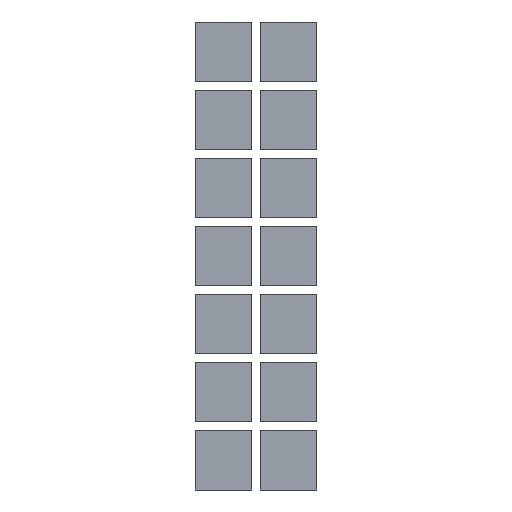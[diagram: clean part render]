
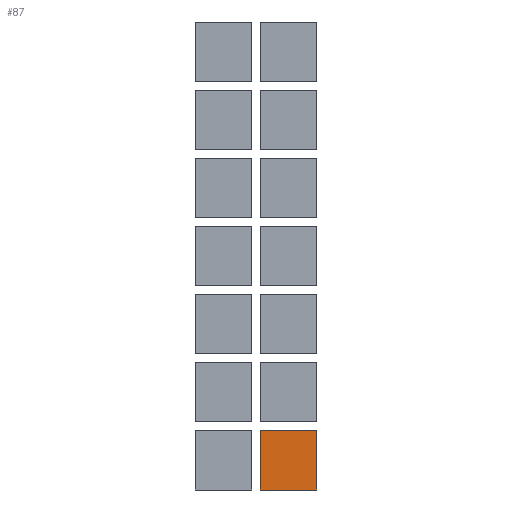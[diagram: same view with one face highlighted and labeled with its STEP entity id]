
A CAD part, left-side view. The second image highlights one B-rep face of the part: STEP entity #87.
In plain terms, the highlighted planar face has unit normal (-1, 0, 0).
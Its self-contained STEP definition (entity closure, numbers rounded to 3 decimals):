
#87 = ADVANCED_FACE('',(#88),#102,.F.);
#88 = FACE_BOUND('',#89,.F.);
#89 = EDGE_LOOP('',(#90,#125,#153,#181));
#90 = ORIENTED_EDGE('',*,*,#91,.F.);
#91 = EDGE_CURVE('',#92,#94,#96,.T.);
#92 = VERTEX_POINT('',#93);
#93 = CARTESIAN_POINT('',(-0.4,-20.,-21.));
#94 = VERTEX_POINT('',#95);
#95 = CARTESIAN_POINT('',(-0.4,-20.,21.));
#96 = SURFACE_CURVE('',#97,(#101,#113),.PCURVE_S1.);
#97 = LINE('',#98,#99);
#98 = CARTESIAN_POINT('',(-0.4,-20.,-21.));
#99 = VECTOR('',#100,1.);
#100 = DIRECTION('',(0.,0.,1.));
#101 = PCURVE('',#102,#107);
#102 = PLANE('',#103);
#103 = AXIS2_PLACEMENT_3D('',#104,#105,#106);
#104 = CARTESIAN_POINT('',(-0.4,-20.,-21.));
#105 = DIRECTION('',(1.,0.,-0.));
#106 = DIRECTION('',(0.,0.,1.));
#107 = DEFINITIONAL_REPRESENTATION('',(#108),#112);
#108 = LINE('',#109,#110);
#109 = CARTESIAN_POINT('',(0.,0.));
#110 = VECTOR('',#111,1.);
#111 = DIRECTION('',(1.,0.));
#112 = ( GEOMETRIC_REPRESENTATION_CONTEXT(2) 
PARAMETRIC_REPRESENTATION_CONTEXT() REPRESENTATION_CONTEXT('2D SPACE',''
  ) );
#113 = PCURVE('',#114,#119);
#114 = PLANE('',#115);
#115 = AXIS2_PLACEMENT_3D('',#116,#117,#118);
#116 = CARTESIAN_POINT('',(-0.4,-20.,-21.));
#117 = DIRECTION('',(-0.,1.,0.));
#118 = DIRECTION('',(0.,0.,1.));
#119 = DEFINITIONAL_REPRESENTATION('',(#120),#124);
#120 = LINE('',#121,#122);
#121 = CARTESIAN_POINT('',(0.,0.));
#122 = VECTOR('',#123,1.);
#123 = DIRECTION('',(1.,0.));
#124 = ( GEOMETRIC_REPRESENTATION_CONTEXT(2) 
PARAMETRIC_REPRESENTATION_CONTEXT() REPRESENTATION_CONTEXT('2D SPACE',''
  ) );
#125 = ORIENTED_EDGE('',*,*,#126,.T.);
#126 = EDGE_CURVE('',#92,#127,#129,.T.);
#127 = VERTEX_POINT('',#128);
#128 = CARTESIAN_POINT('',(-0.4,20.,-21.));
#129 = SURFACE_CURVE('',#130,(#134,#141),.PCURVE_S1.);
#130 = LINE('',#131,#132);
#131 = CARTESIAN_POINT('',(-0.4,-20.,-21.));
#132 = VECTOR('',#133,1.);
#133 = DIRECTION('',(-0.,1.,0.));
#134 = PCURVE('',#102,#135);
#135 = DEFINITIONAL_REPRESENTATION('',(#136),#140);
#136 = LINE('',#137,#138);
#137 = CARTESIAN_POINT('',(0.,0.));
#138 = VECTOR('',#139,1.);
#139 = DIRECTION('',(0.,-1.));
#140 = ( GEOMETRIC_REPRESENTATION_CONTEXT(2) 
PARAMETRIC_REPRESENTATION_CONTEXT() REPRESENTATION_CONTEXT('2D SPACE',''
  ) );
#141 = PCURVE('',#142,#147);
#142 = PLANE('',#143);
#143 = AXIS2_PLACEMENT_3D('',#144,#145,#146);
#144 = CARTESIAN_POINT('',(-0.4,-20.,-21.));
#145 = DIRECTION('',(0.,0.,1.));
#146 = DIRECTION('',(1.,0.,-0.));
#147 = DEFINITIONAL_REPRESENTATION('',(#148),#152);
#148 = LINE('',#149,#150);
#149 = CARTESIAN_POINT('',(0.,0.));
#150 = VECTOR('',#151,1.);
#151 = DIRECTION('',(0.,1.));
#152 = ( GEOMETRIC_REPRESENTATION_CONTEXT(2) 
PARAMETRIC_REPRESENTATION_CONTEXT() REPRESENTATION_CONTEXT('2D SPACE',''
  ) );
#153 = ORIENTED_EDGE('',*,*,#154,.T.);
#154 = EDGE_CURVE('',#127,#155,#157,.T.);
#155 = VERTEX_POINT('',#156);
#156 = CARTESIAN_POINT('',(-0.4,20.,21.));
#157 = SURFACE_CURVE('',#158,(#162,#169),.PCURVE_S1.);
#158 = LINE('',#159,#160);
#159 = CARTESIAN_POINT('',(-0.4,20.,-21.));
#160 = VECTOR('',#161,1.);
#161 = DIRECTION('',(0.,0.,1.));
#162 = PCURVE('',#102,#163);
#163 = DEFINITIONAL_REPRESENTATION('',(#164),#168);
#164 = LINE('',#165,#166);
#165 = CARTESIAN_POINT('',(0.,-40.));
#166 = VECTOR('',#167,1.);
#167 = DIRECTION('',(1.,0.));
#168 = ( GEOMETRIC_REPRESENTATION_CONTEXT(2) 
PARAMETRIC_REPRESENTATION_CONTEXT() REPRESENTATION_CONTEXT('2D SPACE',''
  ) );
#169 = PCURVE('',#170,#175);
#170 = PLANE('',#171);
#171 = AXIS2_PLACEMENT_3D('',#172,#173,#174);
#172 = CARTESIAN_POINT('',(-0.4,20.,-21.));
#173 = DIRECTION('',(-0.,1.,0.));
#174 = DIRECTION('',(0.,0.,1.));
#175 = DEFINITIONAL_REPRESENTATION('',(#176),#180);
#176 = LINE('',#177,#178);
#177 = CARTESIAN_POINT('',(0.,0.));
#178 = VECTOR('',#179,1.);
#179 = DIRECTION('',(1.,0.));
#180 = ( GEOMETRIC_REPRESENTATION_CONTEXT(2) 
PARAMETRIC_REPRESENTATION_CONTEXT() REPRESENTATION_CONTEXT('2D SPACE',''
  ) );
#181 = ORIENTED_EDGE('',*,*,#182,.F.);
#182 = EDGE_CURVE('',#94,#155,#183,.T.);
#183 = SURFACE_CURVE('',#184,(#188,#195),.PCURVE_S1.);
#184 = LINE('',#185,#186);
#185 = CARTESIAN_POINT('',(-0.4,-20.,21.));
#186 = VECTOR('',#187,1.);
#187 = DIRECTION('',(-0.,1.,0.));
#188 = PCURVE('',#102,#189);
#189 = DEFINITIONAL_REPRESENTATION('',(#190),#194);
#190 = LINE('',#191,#192);
#191 = CARTESIAN_POINT('',(42.,0.));
#192 = VECTOR('',#193,1.);
#193 = DIRECTION('',(0.,-1.));
#194 = ( GEOMETRIC_REPRESENTATION_CONTEXT(2) 
PARAMETRIC_REPRESENTATION_CONTEXT() REPRESENTATION_CONTEXT('2D SPACE',''
  ) );
#195 = PCURVE('',#196,#201);
#196 = PLANE('',#197);
#197 = AXIS2_PLACEMENT_3D('',#198,#199,#200);
#198 = CARTESIAN_POINT('',(-0.4,-20.,21.));
#199 = DIRECTION('',(0.,0.,1.));
#200 = DIRECTION('',(1.,0.,-0.));
#201 = DEFINITIONAL_REPRESENTATION('',(#202),#206);
#202 = LINE('',#203,#204);
#203 = CARTESIAN_POINT('',(0.,0.));
#204 = VECTOR('',#205,1.);
#205 = DIRECTION('',(0.,1.));
#206 = ( GEOMETRIC_REPRESENTATION_CONTEXT(2) 
PARAMETRIC_REPRESENTATION_CONTEXT() REPRESENTATION_CONTEXT('2D SPACE',''
  ) );
